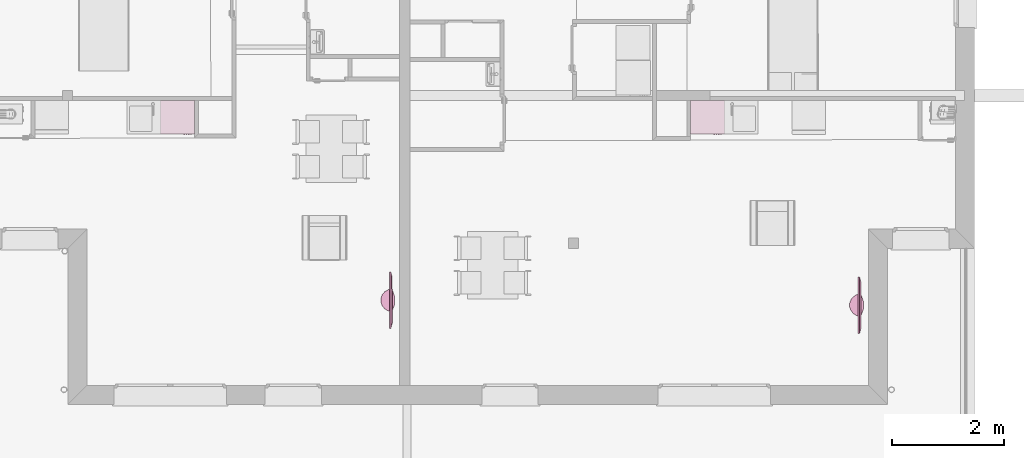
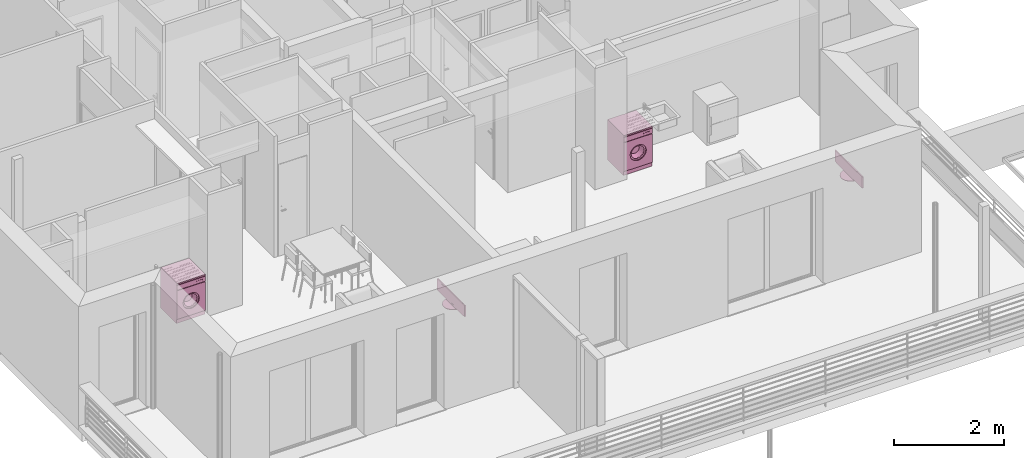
# One storey, part 130 of 171: 4 furnishings.
"""IFC2X3 building model written with IfcOpenShell, lengths in millimetres."""

from ifc_helpers import new_model, entity, si_unit, converted_unit, derived_unit, money_unit, direction, frame, origin_with_axes, place, context, subcontext, project, spatial, open_shell, faceted_brep, surface_model, source, transform, mapped, type_object, element, save


model = new_model("IFC2X3")

# Units and contexts
model_context = context("Model", 3, precision=0.01, world=origin_with_axes(), true_north=direction((0.0, 1.0)))
body_context = subcontext(model_context, "Body", "Model", "MODEL_VIEW")
ifc_project = project(units=[si_unit("LENGTHUNIT", "METRE", prefix="MILLI"), si_unit("AREAUNIT", "SQUARE_METRE"), si_unit("VOLUMEUNIT", "CUBIC_METRE"), converted_unit("PLANEANGLEUNIT", "DEGREE", entity("IfcPlaneAngleMeasure", 0.0174532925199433), si_unit("PLANEANGLEUNIT", "RADIAN"), dimensions=[0, 0, 0, 0, 0, 0, 0]), money_unit("USD"), converted_unit("TIMEUNIT", "Year", entity("IfcTimeMeasure", 31557600.0), si_unit("TIMEUNIT", "SECOND"), dimensions=[0, 0, 1, 0, 0, 0, 0]), si_unit("MASSUNIT", "GRAM", prefix="KILO"), si_unit("THERMODYNAMICTEMPERATUREUNIT", "DEGREE_CELSIUS"), si_unit("LUMINOUSINTENSITYUNIT", "LUMEN"), si_unit("ENERGYUNIT", "JOULE", prefix="MEGA"), derived_unit("THERMALCONDUCTANCEUNIT", [(si_unit("POWERUNIT", "WATT"), 1), (si_unit("LENGTHUNIT", "METRE"), -1), (si_unit("THERMODYNAMICTEMPERATUREUNIT", "KELVIN"), -1)]), derived_unit("SPECIFICHEATCAPACITYUNIT", [(si_unit("ENERGYUNIT", "JOULE"), 1), (si_unit("MASSUNIT", "GRAM", prefix="KILO"), -1), (si_unit("THERMODYNAMICTEMPERATUREUNIT", "KELVIN"), -1)]), derived_unit("MASSDENSITYUNIT", [(si_unit("MASSUNIT", "GRAM", prefix="KILO"), 1), (si_unit("VOLUMEUNIT", "CUBIC_METRE"), -1)])], contexts=[model_context])

# Site, building, storey
site_placement = place(None, origin_with_axes())
site = spatial("IfcSite", under=ifc_project, at=site_placement, Name="Site", CompositionType="ELEMENT")
building_placement = place(site_placement, origin_with_axes())
building = spatial("IfcBuilding", under=site, at=building_placement, Name="Bâtiment", CompositionType="ELEMENT")
storey_placement = place(building_placement, frame((0.0, 0.0, 3000.0), z_axis=(0.0, 0.0, 1.0), x_axis=(1.0, 0.0, 0.0)))
storey = spatial("IfcBuildingStorey", under=building, at=storey_placement, Name="rdc", CompositionType="ELEMENT", Elevation=3000.0)

# Furnishings
furnishing_element_type_1 = type_object("IfcFurnishingElementType", Name="Machine à laver")
shared_shape_1 = source(origin_with_axes(), body_context, "Body", "SurfaceModel", [
    faceted_brep([(0.0, 20.0, 100.0), (0.0, 0.0, 100.0), (-600.0, 0.0, 100.0), (-600.0, 20.0, 100.0), (0.0, 20.00000000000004, 740.0), (0.0, 0.0, 740.0), (-600.0, 0.0, 740.0), (-471.4285714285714, 0.0, 420.0000000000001), (-465.5872845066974, 0.0, 464.3689791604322), (-448.4614977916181, 0.0, 505.7142857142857), (-421.2183053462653, 0.0, 541.2183053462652), (-385.7142857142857, 0.0, 568.4614977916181), (-344.3689791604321, 0.0, 585.5872845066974), (-300.0000000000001, 0.0, 591.4285714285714), (-255.6310208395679, 0.0, 585.5872845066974), (-214.2857142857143, 0.0, 568.4614977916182), (-178.7816946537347, 0.0, 541.2183053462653), (-151.5385022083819, 0.0, 505.7142857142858), (-134.4127154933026, 0.0, 464.3689791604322), (-128.5714285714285, 0.0, 420.0000000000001), (-134.4127154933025, 0.0, 375.6310208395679), (-151.5385022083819, 0.0, 334.2857142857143), (-178.7816946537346, 0.0, 298.7816946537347), (-214.2857142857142, 0.0, 271.5385022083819), (-255.6310208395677, 0.0, 254.4127154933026), (-299.9999999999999, 0.0, 248.5714285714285), (-344.368979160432, 0.0, 254.4127154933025), (-385.7142857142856, 0.0, 271.5385022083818), (-421.2183053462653, 0.0, 298.7816946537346), (-448.4614977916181, 0.0, 334.2857142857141), (-465.5872845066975, 0.0, 375.6310208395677), (-600.0, 20.00000000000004, 740.0), (-471.4285714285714, 20.00000000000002, 420.0000000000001), (-465.5872845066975, 20.00000000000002, 375.6310208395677), (-448.4614977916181, 20.00000000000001, 334.2857142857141), (-421.2183053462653, 20.00000000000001, 298.7816946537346), (-385.7142857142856, 20.00000000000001, 271.5385022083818), (-344.368979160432, 20.00000000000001, 254.4127154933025), (-299.9999999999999, 20.00000000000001, 248.5714285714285), (-255.6310208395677, 20.00000000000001, 254.4127154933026), (-214.2857142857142, 20.00000000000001, 271.5385022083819), (-178.7816946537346, 20.00000000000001, 298.7816946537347), (-151.5385022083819, 20.00000000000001, 334.2857142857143), (-134.4127154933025, 20.00000000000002, 375.6310208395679), (-128.5714285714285, 20.00000000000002, 420.0000000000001), (-134.4127154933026, 20.00000000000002, 464.3689791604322), (-151.5385022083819, 20.00000000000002, 505.7142857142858), (-178.7816946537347, 20.00000000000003, 541.2183053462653), (-214.2857142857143, 20.00000000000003, 568.4614977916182), (-255.6310208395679, 20.00000000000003, 585.5872845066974), (-300.0000000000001, 20.00000000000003, 591.4285714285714), (-344.3689791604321, 20.00000000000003, 585.5872845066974), (-385.7142857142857, 20.00000000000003, 568.4614977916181), (-421.2183053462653, 20.00000000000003, 541.2183053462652), (-448.4614977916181, 20.00000000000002, 505.7142857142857), (-465.5872845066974, 20.00000000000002, 464.3689791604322)], [[[0, 1, 2, 3]], [[4, 5, 1, 0]], [[1, 5, 6, 2], [7, 8, 9, 10, 11, 12, 13, 14, 15, 16, 17, 18, 19, 20, 21, 22, 23, 24, 25, 26, 27, 28, 29, 30]], [[3, 2, 6, 31]], [[0, 3, 31, 4], [32, 33, 34, 35, 36, 37, 38, 39, 40, 41, 42, 43, 44, 45, 46, 47, 48, 49, 50, 51, 52, 53, 54, 55]], [[31, 6, 5, 4]], [[55, 8, 7, 32]], [[54, 9, 8, 55]], [[53, 10, 9, 54]], [[52, 11, 10, 53]], [[51, 12, 11, 52]], [[50, 13, 12, 51]], [[49, 14, 13, 50]], [[48, 15, 14, 49]], [[47, 16, 15, 48]], [[46, 17, 16, 47]], [[45, 18, 17, 46]], [[44, 19, 18, 45]], [[43, 20, 19, 44]], [[42, 21, 20, 43]], [[41, 22, 21, 42]], [[40, 23, 22, 41]], [[39, 24, 23, 40]], [[38, 25, 24, 39]], [[37, 26, 25, 38]], [[36, 27, 26, 37]], [[35, 28, 27, 36]], [[34, 29, 28, 35]], [[33, 30, 29, 34]], [[32, 7, 30, 33]]]),
    faceted_brep([(-471.4285714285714, 40.00000000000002, 420.0000000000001), (-471.4285714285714, 20.00000000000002, 420.0000000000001), (-465.5872845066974, 20.00000000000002, 464.3689791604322), (-465.5872845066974, 40.00000000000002, 464.3689791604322), (-465.5872845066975, 40.00000000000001, 375.6310208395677), (-465.5872845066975, 20.00000000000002, 375.6310208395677), (-448.4614977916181, 20.00000000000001, 334.2857142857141), (-421.2183053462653, 20.00000000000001, 298.7816946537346), (-385.7142857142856, 20.00000000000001, 271.5385022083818), (-344.368979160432, 20.00000000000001, 254.4127154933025), (-299.9999999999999, 20.00000000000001, 248.5714285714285), (-255.6310208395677, 20.00000000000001, 254.4127154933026), (-214.2857142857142, 20.00000000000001, 271.5385022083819), (-178.7816946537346, 20.00000000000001, 298.7816946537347), (-151.5385022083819, 20.00000000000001, 334.2857142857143), (-134.4127154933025, 20.00000000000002, 375.6310208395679), (-128.5714285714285, 20.00000000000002, 420.0000000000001), (-134.4127154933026, 20.00000000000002, 464.3689791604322), (-151.5385022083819, 20.00000000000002, 505.7142857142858), (-178.7816946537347, 20.00000000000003, 541.2183053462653), (-214.2857142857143, 20.00000000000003, 568.4614977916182), (-255.6310208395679, 20.00000000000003, 585.5872845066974), (-300.0000000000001, 20.00000000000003, 591.4285714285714), (-344.3689791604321, 20.00000000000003, 585.5872845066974), (-385.7142857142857, 20.00000000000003, 568.4614977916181), (-421.2183053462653, 20.00000000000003, 541.2183053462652), (-448.4614977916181, 20.00000000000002, 505.7142857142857), (-437.1428571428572, 20.00000000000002, 420.0000000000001), (-432.469827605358, 20.00000000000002, 455.4951833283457), (-418.7691982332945, 20.00000000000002, 488.5714285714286), (-396.9746442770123, 20.00000000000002, 516.9746442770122), (-368.5714285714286, 20.00000000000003, 538.7691982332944), (-335.4951833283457, 20.00000000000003, 552.469827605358), (-300.0000000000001, 20.00000000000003, 557.1428571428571), (-264.5048166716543, 20.00000000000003, 552.469827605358), (-231.4285714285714, 20.00000000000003, 538.7691982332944), (-203.0253557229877, 20.00000000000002, 516.9746442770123), (-181.2308017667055, 20.00000000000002, 488.5714285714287), (-167.530172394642, 20.00000000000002, 455.4951833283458), (-162.8571428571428, 20.00000000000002, 420.0000000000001), (-167.530172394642, 20.00000000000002, 384.5048166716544), (-181.2308017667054, 20.00000000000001, 351.4285714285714), (-203.0253557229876, 20.00000000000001, 323.0253557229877), (-231.4285714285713, 20.00000000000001, 301.2308017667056), (-264.5048166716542, 20.00000000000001, 287.530172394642), (-299.9999999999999, 20.00000000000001, 282.8571428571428), (-335.4951833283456, 20.00000000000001, 287.530172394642), (-368.5714285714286, 20.00000000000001, 301.2308017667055), (-396.9746442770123, 20.00000000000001, 323.0253557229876), (-418.7691982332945, 20.00000000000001, 351.4285714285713), (-432.469827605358, 20.00000000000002, 384.5048166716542), (-448.4614977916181, 40.00000000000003, 505.7142857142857), (-421.2183053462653, 40.00000000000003, 541.2183053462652), (-385.7142857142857, 40.00000000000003, 568.4614977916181), (-344.3689791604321, 40.00000000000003, 585.5872845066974), (-300.0000000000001, 40.00000000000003, 591.4285714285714), (-255.6310208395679, 40.00000000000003, 585.5872845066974), (-214.2857142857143, 40.00000000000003, 568.4614977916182), (-178.7816946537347, 40.00000000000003, 541.2183053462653), (-151.5385022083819, 40.00000000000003, 505.7142857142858), (-134.4127154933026, 40.00000000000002, 464.3689791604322), (-128.5714285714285, 40.00000000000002, 420.0000000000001), (-134.4127154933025, 40.00000000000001, 375.6310208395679), (-151.5385022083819, 40.00000000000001, 334.2857142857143), (-178.7816946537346, 40.00000000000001, 298.7816946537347), (-214.2857142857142, 40.00000000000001, 271.5385022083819), (-255.6310208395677, 40.00000000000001, 254.4127154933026), (-299.9999999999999, 40.00000000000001, 248.5714285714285), (-344.368979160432, 40.00000000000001, 254.4127154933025), (-385.7142857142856, 40.00000000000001, 271.5385022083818), (-421.2183053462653, 40.00000000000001, 298.7816946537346), (-448.4614977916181, 40.00000000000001, 334.2857142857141), (-437.1428571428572, 40.00000000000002, 420.0000000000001), (-432.469827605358, 40.00000000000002, 384.5048166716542), (-418.7691982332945, 40.00000000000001, 351.4285714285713), (-396.9746442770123, 40.00000000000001, 323.0253557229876), (-368.5714285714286, 40.00000000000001, 301.2308017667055), (-335.4951833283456, 40.00000000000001, 287.530172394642), (-299.9999999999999, 40.00000000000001, 282.8571428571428), (-264.5048166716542, 40.00000000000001, 287.530172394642), (-231.4285714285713, 40.00000000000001, 301.2308017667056), (-203.0253557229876, 40.00000000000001, 323.0253557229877), (-181.2308017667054, 40.00000000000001, 351.4285714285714), (-167.530172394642, 40.00000000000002, 384.5048166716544), (-162.8571428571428, 40.00000000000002, 420.0000000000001), (-167.530172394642, 40.00000000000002, 455.4951833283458), (-181.2308017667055, 40.00000000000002, 488.5714285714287), (-203.0253557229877, 40.00000000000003, 516.9746442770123), (-231.4285714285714, 40.00000000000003, 538.7691982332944), (-264.5048166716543, 40.00000000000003, 552.469827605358), (-300.0000000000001, 40.00000000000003, 557.1428571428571), (-335.4951833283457, 40.00000000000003, 552.469827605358), (-368.5714285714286, 40.00000000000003, 538.7691982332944), (-396.9746442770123, 40.00000000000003, 516.9746442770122), (-418.7691982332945, 40.00000000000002, 488.5714285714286), (-432.469827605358, 40.00000000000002, 455.4951833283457)], [[[0, 1, 2, 3]], [[4, 5, 1, 0]], [[1, 5, 6, 7, 8, 9, 10, 11, 12, 13, 14, 15, 16, 17, 18, 19, 20, 21, 22, 23, 24, 25, 26, 2], [27, 28, 29, 30, 31, 32, 33, 34, 35, 36, 37, 38, 39, 40, 41, 42, 43, 44, 45, 46, 47, 48, 49, 50]], [[3, 2, 26, 51]], [[0, 3, 51, 52, 53, 54, 55, 56, 57, 58, 59, 60, 61, 62, 63, 64, 65, 66, 67, 68, 69, 70, 71, 4], [72, 73, 74, 75, 76, 77, 78, 79, 80, 81, 82, 83, 84, 85, 86, 87, 88, 89, 90, 91, 92, 93, 94, 95]], [[71, 6, 5, 4]], [[70, 7, 6, 71]], [[69, 8, 7, 70]], [[68, 9, 8, 69]], [[67, 10, 9, 68]], [[66, 11, 10, 67]], [[65, 12, 11, 66]], [[64, 13, 12, 65]], [[63, 14, 13, 64]], [[62, 15, 14, 63]], [[61, 16, 15, 62]], [[60, 17, 16, 61]], [[59, 18, 17, 60]], [[58, 19, 18, 59]], [[57, 20, 19, 58]], [[56, 21, 20, 57]], [[55, 22, 21, 56]], [[54, 23, 22, 55]], [[53, 24, 23, 54]], [[52, 25, 24, 53]], [[51, 26, 25, 52]], [[95, 28, 27, 72]], [[94, 29, 28, 95]], [[93, 30, 29, 94]], [[92, 31, 30, 93]], [[91, 32, 31, 92]], [[90, 33, 32, 91]], [[89, 34, 33, 90]], [[88, 35, 34, 89]], [[87, 36, 35, 88]], [[86, 37, 36, 87]], [[85, 38, 37, 86]], [[84, 39, 38, 85]], [[83, 40, 39, 84]], [[82, 41, 40, 83]], [[81, 42, 41, 82]], [[80, 43, 42, 81]], [[79, 44, 43, 80]], [[78, 45, 44, 79]], [[77, 46, 45, 78]], [[76, 47, 46, 77]], [[75, 48, 47, 76]], [[74, 49, 48, 75]], [[73, 50, 49, 74]], [[72, 27, 50, 73]]]),
    surface_model("IfcShellBasedSurfaceModel", [(-264.5048166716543, 39.99999999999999, 552.469827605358), (-273.3786125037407, 140.0, 519.3523707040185), (-300.0, 140.0, 522.8571428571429), (-300.0, 39.99999999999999, 557.1428571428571), (-231.4285714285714, 39.99999999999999, 538.7691982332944), (-248.5714285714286, 140.0, 509.0768986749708), (-227.2690167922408, 140.0, 492.7309832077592), (-210.9231013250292, 140.0, 471.4285714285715), (-200.6476292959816, 140.0, 446.6213874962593), (-197.1428571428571, 140.0, 420.0000000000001), (-200.6476292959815, 140.0, 393.3786125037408), (-210.9231013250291, 140.0, 368.5714285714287), (-227.2690167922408, 140.0, 347.2690167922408), (-248.5714285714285, 140.0, 330.9231013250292), (-273.3786125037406, 140.0, 320.6476292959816), (-299.9999999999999, 140.0, 317.1428571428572), (-326.6213874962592, 140.0, 320.6476292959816), (-351.4285714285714, 140.0, 330.9231013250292), (-372.7309832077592, 140.0, 347.2690167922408), (-389.0768986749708, 140.0, 368.5714285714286), (-399.3523707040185, 140.0, 393.3786125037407), (-402.8571428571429, 140.0, 420.0), (-399.3523707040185, 140.0, 446.6213874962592), (-389.0768986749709, 140.0, 471.4285714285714), (-372.7309832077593, 140.0, 492.7309832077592), (-351.4285714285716, 140.0, 509.0768986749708), (-326.6213874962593, 140.0, 519.3523707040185), (-335.4951833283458, 39.99999999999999, 552.469827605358), (-203.0253557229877, 39.99999999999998, 516.9746442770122), (-181.2308017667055, 39.99999999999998, 488.5714285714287), (-167.5301723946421, 39.99999999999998, 455.4951833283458), (-162.8571428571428, 39.99999999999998, 420.0000000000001), (-167.530172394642, 39.99999999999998, 384.5048166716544), (-181.2308017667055, 39.99999999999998, 351.4285714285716), (-203.0253557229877, 39.99999999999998, 323.0253557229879), (-231.4285714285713, 39.99999999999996, 301.2308017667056), (-264.5048166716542, 39.99999999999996, 287.5301723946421), (-299.9999999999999, 39.99999999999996, 282.8571428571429), (-335.4951833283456, 39.99999999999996, 287.5301723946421), (-368.5714285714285, 39.99999999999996, 301.2308017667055), (-396.9746442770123, 39.99999999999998, 323.0253557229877), (-418.7691982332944, 39.99999999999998, 351.4285714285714), (-432.469827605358, 39.99999999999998, 384.5048166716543), (-437.1428571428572, 39.99999999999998, 419.9999999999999), (-432.469827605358, 39.99999999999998, 455.4951833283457), (-418.7691982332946, 39.99999999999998, 488.5714285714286), (-396.9746442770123, 39.99999999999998, 516.9746442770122), (-368.5714285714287, 39.99999999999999, 538.7691982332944)], [open_shell([[[0, 1, 2, 3]], [[4, 5, 1, 0]], [[2, 1, 5, 6, 7, 8, 9, 10, 11, 12, 13, 14, 15, 16, 17, 18, 19, 20, 21, 22, 23, 24, 25, 26]], [[3, 2, 26, 27]], [[28, 6, 5, 4]], [[29, 7, 6, 28]], [[30, 8, 7, 29]], [[31, 9, 8, 30]], [[32, 10, 9, 31]], [[33, 11, 10, 32]], [[34, 12, 11, 33]], [[35, 13, 12, 34]], [[36, 14, 13, 35]], [[37, 15, 14, 36]], [[38, 16, 15, 37]], [[39, 17, 16, 38]], [[40, 18, 17, 39]], [[41, 19, 18, 40]], [[42, 20, 19, 41]], [[43, 21, 20, 42]], [[44, 22, 21, 43]], [[45, 23, 22, 44]], [[46, 24, 23, 45]], [[47, 25, 24, 46]], [[27, 26, 25, 47]]])]),
    surface_model("IfcShellBasedSurfaceModel", [(0.0, 20.0, 100.0), (0.0, 600.0, 99.99999999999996), (0.0, 600.0, 870.0), (0.0, 20.00000000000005, 870.0)], [open_shell([[[0, 1, 2, 3]]])]),
    surface_model("IfcShellBasedSurfaceModel", [(-600.0, 19.99999999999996, 100.0), (-600.0, 599.9999999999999, 99.99999999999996), (-600.0, 599.9999999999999, 870.0), (-600.0, 20.00000000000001, 870.0)], [open_shell([[[0, 1, 2, 3]]])]),
    surface_model("IfcShellBasedSurfaceModel", [(0.0, 600.0, 100.0), (-600.0, 600.0, 100.0), (-600.0, 600.0, 870.0), (0.0, 600.0, 870.0)], [open_shell([[[0, 1, 2, 3]]])]),
    faceted_brep([(0.0, 20.0, 0.0), (0.0, 20.0, 100.0), (-600.0, 20.0, 100.0), (-600.0, 20.0, 0.0), (0.0, 600.0, 0.0), (0.0, 600.0, 100.0), (-600.0, 600.0, 100.0), (-600.0, 600.0, 0.0)], [[[0, 1, 2, 3]], [[4, 5, 1, 0]], [[1, 5, 6, 2]], [[3, 2, 6, 7]], [[0, 3, 7, 4]], [[7, 6, 5, 4]]]),
    faceted_brep([(0.0, 20.0, 750.0), (0.0, 0.0, 750.0), (-600.0, 0.0, 750.0), (-600.0, 20.0, 750.0), (0.0, 20.00000000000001, 860.0), (0.0, 0.0, 860.0), (-600.0, 0.0, 860.0), (-600.0, 20.00000000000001, 860.0)], [[[0, 1, 2, 3]], [[4, 5, 1, 0]], [[1, 5, 6, 2]], [[3, 2, 6, 7]], [[0, 3, 7, 4]], [[7, 6, 5, 4]]]),
    surface_model("IfcShellBasedSurfaceModel", [(0.0, 20.0, 740.0), (-600.0, 20.0, 740.0), (-600.0, 20.00000000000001, 870.0), (0.0, 20.00000000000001, 870.0)], [open_shell([[[0, 1, 2, 3]]])]),
    faceted_brep([(0.0, 0.0, 870.0), (0.0, 0.0, 900.0), (-600.0, 0.0, 900.0), (-600.0, 0.0, 870.0), (0.0, 600.0, 870.0), (0.0, 600.0, 900.0), (-600.0, 600.0, 900.0), (-600.0, 600.0, 870.0)], [[[0, 1, 2, 3]], [[4, 5, 1, 0]], [[1, 5, 6, 2]], [[3, 2, 6, 7]], [[0, 3, 7, 4]], [[7, 6, 5, 4]]]),
    faceted_brep([(-68.66025403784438, 0.0, 804.9999999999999), (-69.99999999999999, 0.0, 809.9999999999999), (-68.66025403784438, 0.0, 815.0), (-65.0, 0.0, 818.6602540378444), (-60.0, 0.0, 820.0), (-55.0, 0.0, 818.6602540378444), (-51.33974596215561, 0.0, 815.0), (-49.99999999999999, 0.0, 809.9999999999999), (-51.33974596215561, 0.0, 804.9999999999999), (-54.99999999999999, 0.0, 801.3397459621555), (-59.99999999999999, 0.0, 799.9999999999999), (-64.99999999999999, 0.0, 801.3397459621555), (-68.66025403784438, -10.0, 804.9999999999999), (-69.99999999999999, -10.0, 809.9999999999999), (-68.66025403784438, -10.0, 815.0), (-65.0, -10.0, 818.6602540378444), (-60.0, -10.0, 820.0), (-55.0, -10.0, 818.6602540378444), (-51.33974596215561, -10.0, 815.0), (-49.99999999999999, -10.0, 809.9999999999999), (-51.33974596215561, -10.0, 804.9999999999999), (-54.99999999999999, -10.0, 801.3397459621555), (-59.99999999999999, -10.0, 799.9999999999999), (-64.99999999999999, -10.0, 801.3397459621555)], [[[0, 1, 2, 3, 4, 5, 6, 7, 8, 9, 10, 11]], [[0, 12, 13, 1]], [[1, 13, 14, 2]], [[2, 14, 15, 3]], [[3, 15, 16, 4]], [[4, 16, 17, 5]], [[5, 17, 18, 6]], [[6, 18, 19, 7]], [[7, 19, 20, 8]], [[8, 20, 21, 9]], [[9, 21, 22, 10]], [[10, 22, 23, 11]], [[11, 23, 12, 0]], [[12, 23, 22, 21, 20, 19, 18, 17, 16, 15, 14, 13]]]),
    faceted_brep([(-108.6602540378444, 0.0, 804.9999999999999), (-110.0, 0.0, 809.9999999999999), (-108.6602540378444, 0.0, 815.0), (-105.0, 0.0, 818.6602540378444), (-100.0, 0.0, 820.0), (-95.0, 0.0, 818.6602540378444), (-91.33974596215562, 0.0, 815.0), (-90.00000000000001, 0.0, 809.9999999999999), (-91.33974596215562, 0.0, 804.9999999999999), (-95.0, 0.0, 801.3397459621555), (-99.99999999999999, 0.0, 799.9999999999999), (-105.0, 0.0, 801.3397459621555), (-108.6602540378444, -10.0, 804.9999999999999), (-110.0, -10.0, 809.9999999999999), (-108.6602540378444, -10.0, 815.0), (-105.0, -10.0, 818.6602540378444), (-100.0, -10.0, 820.0), (-95.0, -10.0, 818.6602540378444), (-91.33974596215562, -10.0, 815.0), (-90.00000000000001, -10.0, 809.9999999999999), (-91.33974596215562, -10.0, 804.9999999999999), (-95.0, -10.0, 801.3397459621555), (-99.99999999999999, -10.0, 799.9999999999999), (-105.0, -10.0, 801.3397459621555)], [[[0, 1, 2, 3, 4, 5, 6, 7, 8, 9, 10, 11]], [[0, 12, 13, 1]], [[1, 13, 14, 2]], [[2, 14, 15, 3]], [[3, 15, 16, 4]], [[4, 16, 17, 5]], [[5, 17, 18, 6]], [[6, 18, 19, 7]], [[7, 19, 20, 8]], [[8, 20, 21, 9]], [[9, 21, 22, 10]], [[10, 22, 23, 11]], [[11, 23, 12, 0]], [[12, 23, 22, 21, 20, 19, 18, 17, 16, 15, 14, 13]]]),
    faceted_brep([(-148.6602540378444, 0.0, 804.9999999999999), (-150.0, 0.0, 809.9999999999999), (-148.6602540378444, 0.0, 815.0), (-145.0, 0.0, 818.6602540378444), (-140.0, 0.0, 820.0), (-135.0, 0.0, 818.6602540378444), (-131.3397459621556, 0.0, 815.0), (-130.0, 0.0, 809.9999999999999), (-131.3397459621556, 0.0, 804.9999999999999), (-135.0, 0.0, 801.3397459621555), (-140.0, 0.0, 799.9999999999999), (-145.0, 0.0, 801.3397459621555), (-148.6602540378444, -10.0, 804.9999999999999), (-150.0, -10.0, 809.9999999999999), (-148.6602540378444, -10.0, 815.0), (-145.0, -10.0, 818.6602540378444), (-140.0, -10.0, 820.0), (-135.0, -10.0, 818.6602540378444), (-131.3397459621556, -10.0, 815.0), (-130.0, -10.0, 809.9999999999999), (-131.3397459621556, -10.0, 804.9999999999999), (-135.0, -10.0, 801.3397459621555), (-140.0, -10.0, 799.9999999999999), (-145.0, -10.0, 801.3397459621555)], [[[0, 1, 2, 3, 4, 5, 6, 7, 8, 9, 10, 11]], [[0, 12, 13, 1]], [[1, 13, 14, 2]], [[2, 14, 15, 3]], [[3, 15, 16, 4]], [[4, 16, 17, 5]], [[5, 17, 18, 6]], [[6, 18, 19, 7]], [[7, 19, 20, 8]], [[8, 20, 21, 9]], [[9, 21, 22, 10]], [[10, 22, 23, 11]], [[11, 23, 12, 0]], [[12, 23, 22, 21, 20, 19, 18, 17, 16, 15, 14, 13]]]),
    faceted_brep([(-188.6602540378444, 0.0, 804.9999999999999), (-190.0, 0.0, 809.9999999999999), (-188.6602540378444, 0.0, 815.0), (-185.0, 0.0, 818.6602540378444), (-180.0, 0.0, 820.0), (-175.0, 0.0, 818.6602540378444), (-171.3397459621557, 0.0, 815.0), (-170.0, 0.0, 809.9999999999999), (-171.3397459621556, 0.0, 804.9999999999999), (-175.0, 0.0, 801.3397459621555), (-180.0, 0.0, 799.9999999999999), (-185.0, 0.0, 801.3397459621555), (-188.6602540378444, -10.0, 804.9999999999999), (-190.0, -10.0, 809.9999999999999), (-188.6602540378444, -10.0, 815.0), (-185.0, -10.0, 818.6602540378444), (-180.0, -10.0, 820.0), (-175.0, -10.0, 818.6602540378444), (-171.3397459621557, -10.0, 815.0), (-170.0, -10.0, 809.9999999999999), (-171.3397459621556, -10.0, 804.9999999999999), (-175.0, -10.0, 801.3397459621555), (-180.0, -10.0, 799.9999999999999), (-185.0, -10.0, 801.3397459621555)], [[[0, 1, 2, 3, 4, 5, 6, 7, 8, 9, 10, 11]], [[0, 12, 13, 1]], [[1, 13, 14, 2]], [[2, 14, 15, 3]], [[3, 15, 16, 4]], [[4, 16, 17, 5]], [[5, 17, 18, 6]], [[6, 18, 19, 7]], [[7, 19, 20, 8]], [[8, 20, 21, 9]], [[9, 21, 22, 10]], [[10, 22, 23, 11]], [[11, 23, 12, 0]], [[12, 23, 22, 21, 20, 19, 18, 17, 16, 15, 14, 13]]]),
])
for number, where, z_axis, x_axis, name in (
    (1, (2220481.552086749, -653012.6820620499, 0.0), (0.0, 0.0, 1.0), (0.9999978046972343, -0.00209537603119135, 0.0), "Obj.-019"),
    (2, (2229906.499764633, -653013.2729308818, 0.0), (0.0, 0.0, 1.0), (0.9999997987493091, -0.0006344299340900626, 0.0), "Obj.-019"),
):
    element("IfcFurnishingElement", number, at=place(storey_placement, frame(where, z_axis=z_axis, x_axis=x_axis)), inside=storey, type_object=furnishing_element_type_1, Name=name, context=body_context, shape_type="MappedRepresentation", body=[
        mapped(shared_shape_1, transform((0.0, 0.0, 0.0))),
    ])
furnishing_element_type_2 = type_object("IfcFurnishingElementType", Name="Ecran TV plasma")
shared_shape_2 = source(origin_with_axes(), body_context, "Body", "Brep", [
    faceted_brep([(300.0, 45.45454545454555, 0.0), (311.9952377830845, -22.76722074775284, 0.0), (311.9952377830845, -22.76722074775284, 12.72727272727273), (300.0, 45.45454545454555, 12.72727272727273), (300.362869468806, 45.66379498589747, 0.0), (430.8157560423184, 93.01588086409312, 0.0), (569.5967719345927, 92.94321528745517, 0.0), (700.0000000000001, 45.45454545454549, 0.0), (699.9923846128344, 43.70923835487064, 0.0), (687.402263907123, -24.40525330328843, 0.0), (652.3327960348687, -84.13989598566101, 0.0), (598.9906470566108, -128.3293772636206, 0.0), (533.7743345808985, -151.6730637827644, 0.0), (464.5067103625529, -151.3708248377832, 0.0), (399.4965906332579, -127.4589147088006, 0.0), (346.5420938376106, -82.80562387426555, 0.0), (346.5420938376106, -82.80562387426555, 12.72727272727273), (399.4965906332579, -127.4589147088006, 12.72727272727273), (464.5067103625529, -151.3708248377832, 12.72727272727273), (533.7743345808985, -151.6730637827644, 12.72727272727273), (598.9906470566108, -128.3293772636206, 12.72727272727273), (652.3327960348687, -84.13989598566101, 12.72727272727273), (687.402263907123, -24.40525330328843, 12.72727272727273), (699.9923846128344, 43.70923835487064, 12.72727272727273), (700.0000000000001, 45.45454545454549, 12.72727272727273), (569.5967719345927, 92.94321528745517, 12.72727272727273), (430.8157560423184, 93.01588086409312, 12.72727272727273), (300.362869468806, 45.66379498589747, 12.72727272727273)], [[[0, 1, 2, 3]], [[0, 4, 5, 6, 7, 8, 9, 10, 11, 12, 13, 14, 15, 1]], [[1, 15, 16, 2]], [[3, 2, 16, 17, 18, 19, 20, 21, 22, 23, 24, 25, 26, 27]], [[4, 0, 3, 27]], [[5, 4, 27, 26]], [[6, 5, 26, 25]], [[7, 6, 25, 24]], [[8, 7, 24, 23]], [[9, 8, 23, 22]], [[10, 9, 22, 21]], [[11, 10, 21, 20]], [[12, 11, 20, 19]], [[13, 12, 19, 18]], [[14, 13, 18, 17]], [[15, 14, 17, 16]]]),
    faceted_brep([(666.6666666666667, 2.500000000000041, 12.72727272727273), (666.6666666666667, 22.50000000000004, 12.72727272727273), (666.6666666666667, 22.50000000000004, 25.45454545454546), (666.6666666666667, 2.500000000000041, 25.45454545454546), (333.3333333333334, 2.500000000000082, 12.72727272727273), (333.3333333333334, 22.50000000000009, 12.72727272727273), (333.3333333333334, 22.50000000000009, 25.45454545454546), (333.3333333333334, 2.500000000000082, 25.45454545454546)], [[[0, 1, 2, 3]], [[0, 4, 5, 1]], [[1, 5, 6, 2]], [[3, 2, 6, 7]], [[4, 0, 3, 7]], [[5, 4, 7, 6]]]),
    faceted_brep([(62.5, -0.2539999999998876, 65.45454545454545), (62.5, -0.2539999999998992, 254.5454545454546), (62.5, 0.0, 254.5454545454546), (62.5, 0.0, 65.45454545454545), (937.5, -0.2539999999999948, 65.45454545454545), (937.5, -0.2540000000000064, 254.5454545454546), (937.5, 0.0, 254.5454545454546), (937.5, 0.0, 65.45454545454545)], [[[0, 1, 2, 3]], [[0, 4, 5, 1]], [[1, 5, 6, 2]], [[3, 2, 6, 7]], [[4, 0, 3, 7]], [[5, 4, 7, 6]]]),
    faceted_brep([(937.5, 0.0, 25.45454545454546), (1000.0, 0.0, 31.81818181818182), (1000.0, 0.0, 280.0), (0.0, 0.0, 280.0), (0.0, 0.0, 31.81818181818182), (62.5, 0.0, 25.45454545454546), (937.5000003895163, 25.00000000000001, 25.4545450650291), (1000.000000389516, 25.0, 31.81818187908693), (1000.000000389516, 24.99999999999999, 279.9999999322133), (3.895163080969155e-07, 25.00000000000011, 279.9999999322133), (3.895163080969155e-07, 25.00000000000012, 31.81818187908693), (62.50000038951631, 25.00000000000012, 25.4545450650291), (934.156616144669, 42.64268163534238, 91.29792930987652), (906.6987288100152, 50.00000037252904, 118.7558166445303), (906.6987288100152, 50.00000037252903, 186.6987283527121), (93.30127196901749, 50.00000037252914, 186.6987283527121), (93.30127196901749, 50.00000037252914, 118.7558166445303), (65.84338463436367, 42.64268163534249, 91.29792930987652)], [[[0, 1, 2, 3, 4, 5]], [[1, 0, 6, 7]], [[2, 1, 7, 8]], [[3, 2, 8, 9]], [[4, 3, 9, 10]], [[5, 4, 10, 11]], [[0, 5, 11, 6]], [[7, 6, 12]], [[8, 7, 12, 13, 14]], [[9, 8, 14, 15]], [[10, 9, 15, 16, 17]], [[11, 10, 17]], [[6, 11, 17, 16, 13, 12]], [[14, 13, 16, 15]]]),
    faceted_brep([(500.0, -0.7937499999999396, 39.45454545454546), (490.0, -0.7937499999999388, 46.45454545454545), (490.0, 0.0, 46.45454545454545), (500.0, 0.0, 39.45454545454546), (510.0, -0.7937499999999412, 46.45454545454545), (600.0, -0.7937499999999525, 52.18181818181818), (400.0, -0.7937499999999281, 52.18181818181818), (400.0, 0.0, 52.18181818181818), (600.0, 0.0, 52.18181818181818), (510.0, 0.0, 46.45454545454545)], [[[0, 1, 2, 3]], [[0, 4, 5, 6, 1]], [[1, 6, 7, 2]], [[3, 2, 7, 8, 9]], [[4, 0, 3, 9]], [[5, 4, 9, 8]], [[6, 5, 8, 7]]]),
    faceted_brep([(866.6666666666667, 10.0, 280.0), (933.3333333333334, 9.999999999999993, 280.0), (933.3333333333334, 9.999999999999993, 281.5875), (866.6666666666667, 10.0, 281.5875), (866.6666666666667, 16.25, 280.0), (933.3333333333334, 16.24999999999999, 280.0), (933.3333333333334, 16.24999999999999, 281.5875), (866.6666666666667, 16.25, 281.5875)], [[[0, 1, 2, 3]], [[1, 0, 4, 5]], [[2, 1, 5, 6]], [[3, 2, 6, 7]], [[0, 3, 7, 4]], [[5, 4, 7, 6]]]),
    faceted_brep([(795.2380952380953, 10.00000000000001, 280.0), (861.9047619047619, 10.0, 280.0), (861.9047619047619, 10.0, 281.5875), (795.2380952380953, 10.00000000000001, 281.5875), (795.2380952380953, 16.25000000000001, 280.0), (861.9047619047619, 16.25, 280.0), (861.9047619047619, 16.25, 281.5875), (795.2380952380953, 16.25000000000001, 281.5875)], [[[0, 1, 2, 3]], [[1, 0, 4, 5]], [[2, 1, 5, 6]], [[3, 2, 6, 7]], [[0, 3, 7, 4]], [[5, 4, 7, 6]]]),
    faceted_brep([(757.1428571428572, 10.00000000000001, 280.0), (790.4761904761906, 10.00000000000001, 280.0), (790.4761904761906, 10.00000000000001, 281.5875), (757.1428571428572, 10.00000000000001, 281.5875), (757.1428571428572, 16.25000000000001, 280.0), (790.4761904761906, 16.25000000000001, 280.0), (790.4761904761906, 16.25000000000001, 281.5875), (757.1428571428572, 16.25000000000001, 281.5875)], [[[0, 1, 2, 3]], [[1, 0, 4, 5]], [[2, 1, 5, 6]], [[3, 2, 6, 7]], [[0, 3, 7, 4]], [[5, 4, 7, 6]]]),
])
for number, where, z_axis, x_axis, name in (
    (3, (2232284.894261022, -655553.028190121, 800.0000000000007), (0.0, 0.0, 1.0), (0.0005579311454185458, -0.9999998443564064, 0.0), "Obj.-034"),
    (4, (2223950.565835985, -655467.0217716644, 800.0000000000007), (0.0, 0.0, 1.0), (0.0005579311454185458, -0.9999998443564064, 0.0), "Obj.-034"),
):
    element("IfcFurnishingElement", number, at=place(storey_placement, frame(where, z_axis=z_axis, x_axis=x_axis)), inside=storey, type_object=furnishing_element_type_2, Name=name, context=body_context, shape_type="MappedRepresentation", body=[
        mapped(shared_shape_2, transform((0.0, 0.0, 0.0))),
    ])

save(model, "model.ifc")
